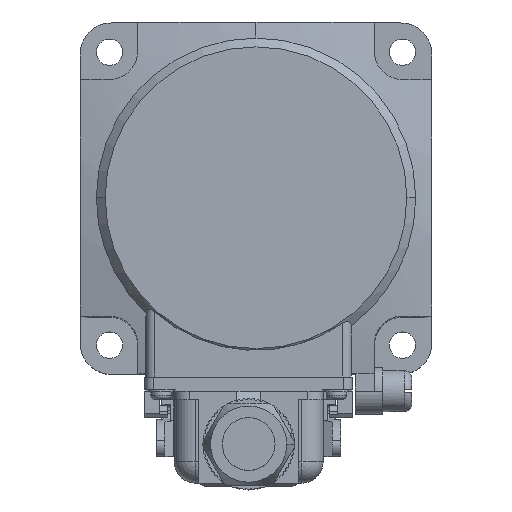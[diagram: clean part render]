
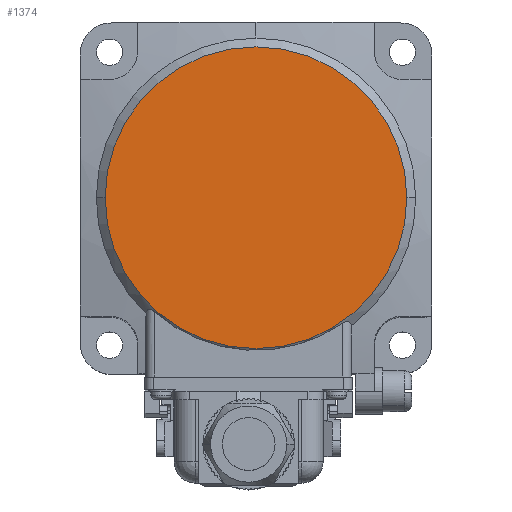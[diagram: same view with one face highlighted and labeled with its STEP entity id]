
A CAD part, top view. The second image highlights one B-rep face of the part: STEP entity #1374.
In plain terms, the highlighted planar face has unit normal (0, 0, 1).
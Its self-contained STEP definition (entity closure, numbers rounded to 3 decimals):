
#353 = PLANE ( 'NONE',  #18095 ) ;
#928 = CARTESIAN_POINT ( 'NONE',  ( 0., 0., 100.05 ) ) ;
#1374 = ADVANCED_FACE ( 'NONE', ( #11865 ), #353, .F. ) ;
#1534 = AXIS2_PLACEMENT_3D ( 'NONE', #928, #18812, #5417 ) ;
#1652 = EDGE_CURVE ( 'NONE', #13863, #8206, #18106, .T. ) ;
#2503 = DIRECTION ( 'NONE',  ( 0., 0., 1. ) ) ;
#2859 = EDGE_CURVE ( 'NONE', #8206, #13863, #7858, .T. ) ;
#3044 = AXIS2_PLACEMENT_3D ( 'NONE', #9892, #2503, #3754 ) ;
#3107 = CARTESIAN_POINT ( 'NONE',  ( 25.75, 0., 100.05 ) ) ;
#3754 = DIRECTION ( 'NONE',  ( 1., 0., 0. ) ) ;
#5417 = DIRECTION ( 'NONE',  ( 1., 0., 0. ) ) ;
#5477 = ORIENTED_EDGE ( 'NONE', *, *, #2859, .T. ) ;
#7858 = CIRCLE ( 'NONE', #3044, 25.75 ) ;
#8206 = VERTEX_POINT ( 'NONE', #3107 ) ;
#9892 = CARTESIAN_POINT ( 'NONE',  ( 0., 0., 100.05 ) ) ;
#11865 = FACE_OUTER_BOUND ( 'NONE', #15998, .T. ) ;
#12131 = DIRECTION ( 'NONE',  ( 0., 0., -1. ) ) ;
#12945 = ORIENTED_EDGE ( 'NONE', *, *, #1652, .T. ) ;
#13786 = DIRECTION ( 'NONE',  ( -1., 0., 0. ) ) ;
#13863 = VERTEX_POINT ( 'NONE', #18854 ) ;
#15998 = EDGE_LOOP ( 'NONE', ( #12945, #5477 ) ) ;
#16496 = CARTESIAN_POINT ( 'NONE',  ( 0., 0., 100.05 ) ) ;
#18095 = AXIS2_PLACEMENT_3D ( 'NONE', #16496, #12131, #13786 ) ;
#18106 = CIRCLE ( 'NONE', #1534, 25.75 ) ;
#18812 = DIRECTION ( 'NONE',  ( 0., 0., 1. ) ) ;
#18854 = CARTESIAN_POINT ( 'NONE',  ( -25.75, 0., 100.05 ) ) ;
